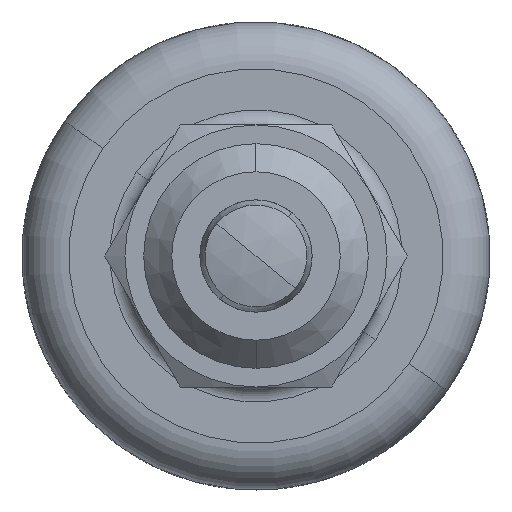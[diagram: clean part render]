
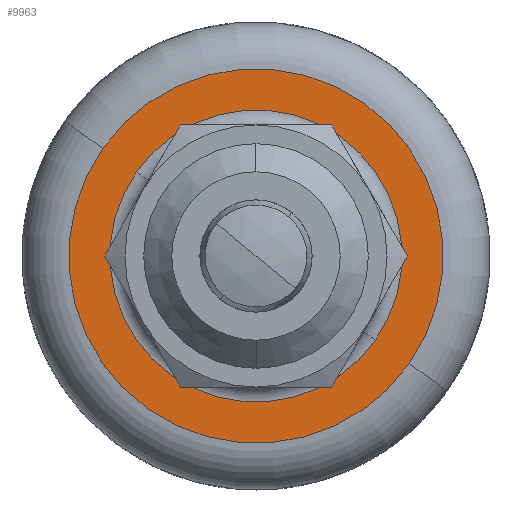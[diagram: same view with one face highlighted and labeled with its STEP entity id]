
A CAD part, front view. The second image highlights one B-rep face of the part: STEP entity #9963.
In plain terms, the highlighted planar face has unit normal (0, -1, 0).
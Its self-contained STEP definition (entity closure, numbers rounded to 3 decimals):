
#2417 = CARTESIAN_POINT ( 'NONE',  ( -10., 15., 0. ) ) ;
#2520 = CARTESIAN_POINT ( 'NONE',  ( 10., 15., 0. ) ) ;
#2521 = DIRECTION ( 'NONE',  ( 1., 0., 0. ) ) ;
#2522 = DIRECTION ( 'NONE',  ( 0., -1., 0. ) ) ;
#2523 = CARTESIAN_POINT ( 'NONE',  ( 0., 15., 0. ) ) ;
#2524 = AXIS2_PLACEMENT_3D ( 'NONE', #2523, #2522, #2521 ) ;
#2525 = CIRCLE ( 'NONE', #2524, 10. ) ;
#2551 = CARTESIAN_POINT ( 'NONE',  ( 7.8, 15., 0. ) ) ;
#2552 = DIRECTION ( 'NONE',  ( 1., 0., 0. ) ) ;
#2553 = DIRECTION ( 'NONE',  ( 0., 1., 0. ) ) ;
#2554 = CARTESIAN_POINT ( 'NONE',  ( 0., 15., 0. ) ) ;
#2555 = AXIS2_PLACEMENT_3D ( 'NONE', #2554, #2553, #2552 ) ;
#2556 = CIRCLE ( 'NONE', #2555, 7.8 ) ;
#2557 = CARTESIAN_POINT ( 'NONE',  ( -7.8, 15., 0. ) ) ;
#2940 = DIRECTION ( 'NONE',  ( 1., 0., 0. ) ) ;
#2941 = DIRECTION ( 'NONE',  ( 0., 1., 0. ) ) ;
#2942 = CARTESIAN_POINT ( 'NONE',  ( 0., 15., 0. ) ) ;
#2943 = AXIS2_PLACEMENT_3D ( 'NONE', #2942, #2941, #2940 ) ;
#2944 = CIRCLE ( 'NONE', #2943, 7.8 ) ;
#2963 = DIRECTION ( 'NONE',  ( 0., -1., 0. ) ) ;
#2964 = CARTESIAN_POINT ( 'NONE',  ( 0., 15., 0. ) ) ;
#2965 = AXIS2_PLACEMENT_3D ( 'NONE', #2964, #2963, #3019 ) ;
#2966 = PLANE ( 'NONE',  #2965 ) ;
#2971 = FACE_BOUND ( 'NONE', #9968, .T. ) ;
#2972 = FACE_OUTER_BOUND ( 'NONE', #9964, .T. ) ;
#3014 = DIRECTION ( 'NONE',  ( 1., 0., 0. ) ) ;
#3015 = DIRECTION ( 'NONE',  ( 0., -1., 0. ) ) ;
#3016 = CARTESIAN_POINT ( 'NONE',  ( 0., 15., 0. ) ) ;
#3017 = AXIS2_PLACEMENT_3D ( 'NONE', #3016, #3015, #3014 ) ;
#3018 = CIRCLE ( 'NONE', #3017, 10. ) ;
#3019 = DIRECTION ( 'NONE',  ( 1., 0., 0. ) ) ;
#9685 = VERTEX_POINT ( 'NONE', #2417 ) ;
#9736 = EDGE_CURVE ( 'NONE', #9737, #9685, #2525, .T. ) ;
#9737 = VERTEX_POINT ( 'NONE', #2520 ) ;
#9748 = VERTEX_POINT ( 'NONE', #2557 ) ;
#9750 = EDGE_CURVE ( 'NONE', #9751, #9748, #2556, .T. ) ;
#9751 = VERTEX_POINT ( 'NONE', #2551 ) ;
#9944 = ORIENTED_EDGE ( 'NONE', *, *, #9945, .T. ) ;
#9945 = EDGE_CURVE ( 'NONE', #9748, #9751, #2944, .T. ) ;
#9963 = ADVANCED_FACE ( 'NONE', ( #2972, #2971 ), #2966, .T. ) ;
#9964 = EDGE_LOOP ( 'NONE', ( #9965, #9966 ) ) ;
#9965 = ORIENTED_EDGE ( 'NONE', *, *, #9736, .T. ) ;
#9966 = ORIENTED_EDGE ( 'NONE', *, *, #9967, .T. ) ;
#9967 = EDGE_CURVE ( 'NONE', #9685, #9737, #3018, .T. ) ;
#9968 = EDGE_LOOP ( 'NONE', ( #9969, #9944 ) ) ;
#9969 = ORIENTED_EDGE ( 'NONE', *, *, #9750, .T. ) ;
